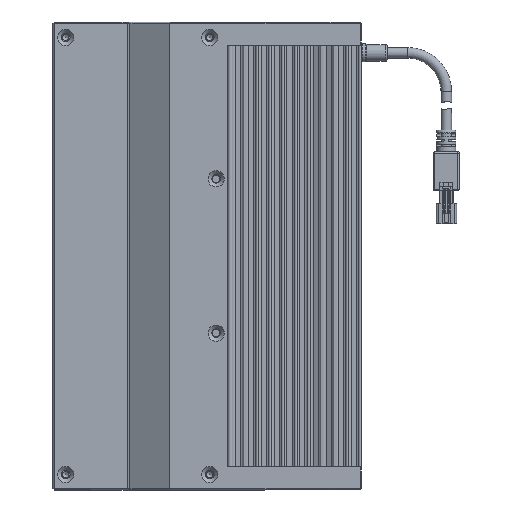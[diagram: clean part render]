
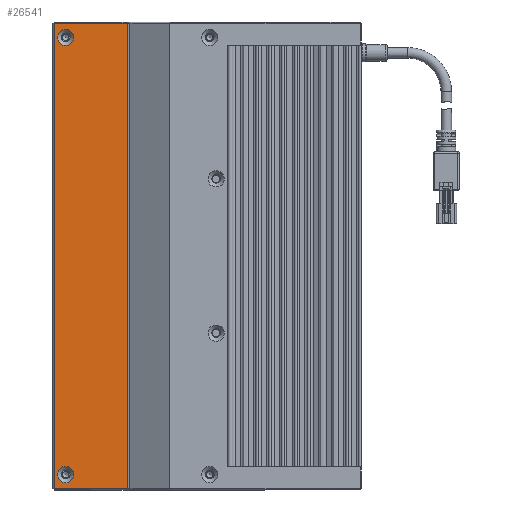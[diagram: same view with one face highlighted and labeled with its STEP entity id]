
A CAD part, left-side view. The second image highlights one B-rep face of the part: STEP entity #26541.
In plain terms, the highlighted planar face has unit normal (-1, 0, 0).
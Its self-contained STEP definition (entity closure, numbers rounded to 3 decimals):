
#1287 = EDGE_CURVE ( 'NONE', #1933, #14049, #24026, .T. ) ;
#1341 = CARTESIAN_POINT ( 'NONE',  ( -15.462, 21.439, 301. ) ) ;
#1429 = DIRECTION ( 'NONE',  ( 0., 1., 0. ) ) ;
#1676 = DIRECTION ( 'NONE',  ( 0., 0., 1. ) ) ;
#1933 = VERTEX_POINT ( 'NONE', #3564 ) ;
#3564 = CARTESIAN_POINT ( 'NONE',  ( -15.462, -6.987, 120. ) ) ;
#3839 = DIRECTION ( 'NONE',  ( 0., 0., -1. ) ) ;
#4075 = VECTOR ( 'NONE', #12766, 1000. ) ;
#7753 = ORIENTED_EDGE ( 'NONE', *, *, #8416, .F. ) ;
#8416 = EDGE_CURVE ( 'NONE', #24922, #21388, #13720, .T. ) ;
#8719 = ORIENTED_EDGE ( 'NONE', *, *, #13173, .F. ) ;
#8916 = LINE ( 'NONE', #19185, #19738 ) ;
#9194 = DIRECTION ( 'NONE',  ( 0., 0., 1. ) ) ;
#9320 = CARTESIAN_POINT ( 'NONE',  ( -15.462, 21.439, 299.5 ) ) ;
#9823 = FACE_BOUND ( 'NONE', #18758, .T. ) ;
#10662 = EDGE_LOOP ( 'NONE', ( #8719, #19085, #14924, #7753 ) ) ;
#11587 = CIRCLE ( 'NONE', #26485, 3.15 ) ;
#12234 = FACE_OUTER_BOUND ( 'NONE', #10662, .T. ) ;
#12766 = DIRECTION ( 'NONE',  ( 0., -1., 0. ) ) ;
#13173 = EDGE_CURVE ( 'NONE', #14049, #24922, #24945, .T. ) ;
#13224 = EDGE_CURVE ( 'NONE', #21388, #1933, #8916, .T. ) ;
#13720 = LINE ( 'NONE', #25642, #4075 ) ;
#14049 = VERTEX_POINT ( 'NONE', #21679 ) ;
#14382 = DIRECTION ( 'NONE',  ( 0., 0., 1. ) ) ;
#14424 = CARTESIAN_POINT ( 'NONE',  ( -15.462, -6.987, 301. ) ) ;
#14924 = ORIENTED_EDGE ( 'NONE', *, *, #13224, .F. ) ;
#16763 = AXIS2_PLACEMENT_3D ( 'NONE', #22132, #32819, #19681 ) ;
#17012 = EDGE_CURVE ( 'NONE', #31544, #31544, #21535, .T. ) ;
#17095 = ORIENTED_EDGE ( 'NONE', *, *, #31288, .F. ) ;
#17542 = CARTESIAN_POINT ( 'NONE',  ( -15.462, 16.939, 298.65 ) ) ;
#18273 = FACE_BOUND ( 'NONE', #29548, .T. ) ;
#18438 = VECTOR ( 'NONE', #1429, 1000. ) ;
#18758 = EDGE_LOOP ( 'NONE', ( #26681 ) ) ;
#19085 = ORIENTED_EDGE ( 'NONE', *, *, #1287, .F. ) ;
#19161 = DIRECTION ( 'NONE',  ( -1., 0., 0. ) ) ;
#19185 = CARTESIAN_POINT ( 'NONE',  ( -15.462, -6.987, 299.5 ) ) ;
#19675 = CARTESIAN_POINT ( 'NONE',  ( -15.462, -7.561, 120. ) ) ;
#19681 = DIRECTION ( 'NONE',  ( 0., 0., -1. ) ) ;
#19738 = VECTOR ( 'NONE', #3839, 1000. ) ;
#21388 = VERTEX_POINT ( 'NONE', #14424 ) ;
#21535 = CIRCLE ( 'NONE', #31232, 3.15 ) ;
#21679 = CARTESIAN_POINT ( 'NONE',  ( -15.462, 21.439, 120. ) ) ;
#22132 = CARTESIAN_POINT ( 'NONE',  ( -15.462, -7.561, 299.5 ) ) ;
#24026 = LINE ( 'NONE', #19675, #18438 ) ;
#24644 = DIRECTION ( 'NONE',  ( -1., 0., 0. ) ) ;
#24922 = VERTEX_POINT ( 'NONE', #1341 ) ;
#24945 = LINE ( 'NONE', #9320, #29003 ) ;
#25642 = CARTESIAN_POINT ( 'NONE',  ( -15.462, -7.561, 301. ) ) ;
#26485 = AXIS2_PLACEMENT_3D ( 'NONE', #32379, #24644, #9194 ) ;
#26541 = ADVANCED_FACE ( 'NONE', ( #9823, #18273, #12234 ), #32586, .F. ) ;
#26681 = ORIENTED_EDGE ( 'NONE', *, *, #17012, .F. ) ;
#28303 = VERTEX_POINT ( 'NONE', #17542 ) ;
#29003 = VECTOR ( 'NONE', #14382, 1000. ) ;
#29548 = EDGE_LOOP ( 'NONE', ( #17095 ) ) ;
#31232 = AXIS2_PLACEMENT_3D ( 'NONE', #32371, #19161, #1676 ) ;
#31288 = EDGE_CURVE ( 'NONE', #28303, #28303, #11587, .T. ) ;
#31411 = CARTESIAN_POINT ( 'NONE',  ( -15.462, 16.939, 128.65 ) ) ;
#31544 = VERTEX_POINT ( 'NONE', #31411 ) ;
#32371 = CARTESIAN_POINT ( 'NONE',  ( -15.462, 16.939, 125.5 ) ) ;
#32379 = CARTESIAN_POINT ( 'NONE',  ( -15.462, 16.939, 295.5 ) ) ;
#32586 = PLANE ( 'NONE',  #16763 ) ;
#32819 = DIRECTION ( 'NONE',  ( 1., 0., 0. ) ) ;
